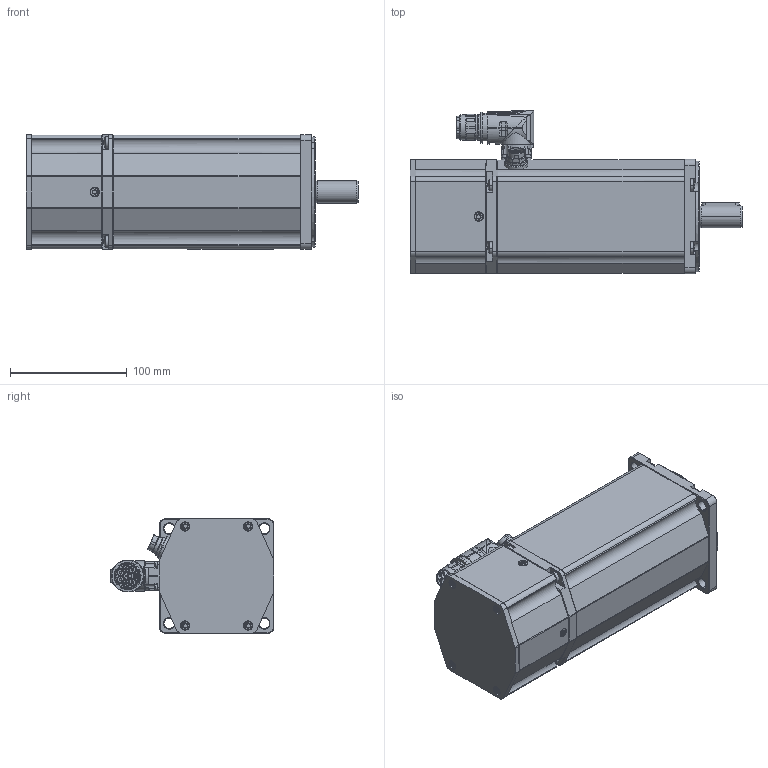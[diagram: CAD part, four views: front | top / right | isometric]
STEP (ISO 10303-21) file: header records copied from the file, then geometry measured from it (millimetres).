
FILE_DESCRIPTION((''),'2;1');
FILE_NAME('9659503099_SW0001','2018-10-05T',('HMeister'),(''),'CREO PARAMETRIC BY PTC INC, 2016050','CREO PARAMETRIC BY PTC INC, 2016050','');
FILE_SCHEMA(('CONFIG_CONTROL_DESIGN'));
Products named in the file (1): 9659503099_SW0001
Bounding box: 284.5 x 140.3 x 98 mm (x, y, z)
Volume: 879533.3 mm3; surface area: 247427.3 mm2
Topology: 3 solids, 7 shells, 1996 faces, 4873 edges, 2991 vertices
Faces by surface type: cylinder 809, plane 505, cone 333, torus 245, bspline 68, sphere 36
Entity records: 65653 total; most frequent: CARTESIAN_POINT 18200, DIRECTION 10579, ORIENTED_EDGE 9634, EDGE_CURVE 4817, AXIS2_PLACEMENT_3D 4345, VERTEX_POINT 2988, CIRCLE 2416, EDGE_LOOP 2183
